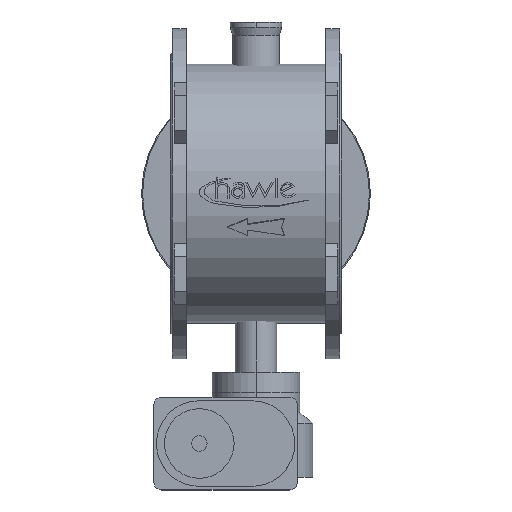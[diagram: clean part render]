
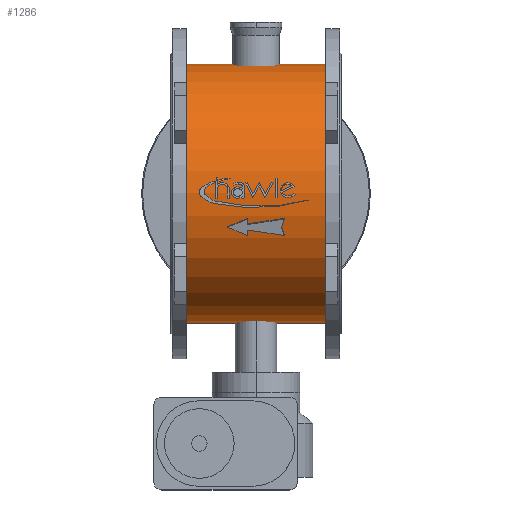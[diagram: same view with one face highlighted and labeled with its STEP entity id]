
A CAD part, top view. The second image highlights one B-rep face of the part: STEP entity #1286.
In plain terms, the highlighted cylindrical face has radius 251 mm (diameter 502 mm), a partial arc.
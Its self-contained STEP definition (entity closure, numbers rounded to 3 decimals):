
#1286=ADVANCED_FACE('',(#2618),#2619,.T.);
#2618=FACE_OUTER_BOUND('',#4376,.T.);
#2619=CYLINDRICAL_SURFACE('',#4377,251.0);
#4376=EDGE_LOOP('',(#6615,#6616,#6617,#6618));
#4377=AXIS2_PLACEMENT_3D('',#6619,#6620,#6621);
#6615=ORIENTED_EDGE('',*,*,#9809,.T.);
#6616=ORIENTED_EDGE('',*,*,#9810,.T.);
#6617=ORIENTED_EDGE('',*,*,#9811,.T.);
#6618=ORIENTED_EDGE('',*,*,#9812,.T.);
#6619=CARTESIAN_POINT('',(-300.0,0.,0.0));
#6620=DIRECTION('',(1.0,0.,0.0));
#6621=DIRECTION('',(0.,-1.0,0.0));
#9809=EDGE_CURVE('',#11742,#11743,#11744,.T.);
#9810=EDGE_CURVE('',#11743,#11745,#11746,.T.);
#9811=EDGE_CURVE('',#11745,#11747,#11748,.T.);
#9812=EDGE_CURVE('',#11747,#11742,#11749,.T.);
#11742=VERTEX_POINT('',#14161);
#11743=VERTEX_POINT('',#14162);
#11744=LINE('',#14163,#14164);
#11745=VERTEX_POINT('',#14165);
#11746=CIRCLE('',#14166,251.0);
#11747=VERTEX_POINT('',#14167);
#11748=LINE('',#14168,#14169);
#11749=CIRCLE('',#14170,251.0);
#14161=CARTESIAN_POINT('',(-300.0,-251.0,0.0));
#14162=CARTESIAN_POINT('',(-30.0,-251.0,0.0));
#14163=CARTESIAN_POINT('',(-300.0,-251.0,0.));
#14164=VECTOR('',#16404,1.0);
#14165=CARTESIAN_POINT('',(-30.0,251.0,0.));
#14166=AXIS2_PLACEMENT_3D('',#16405,#16406,#16407);
#14167=CARTESIAN_POINT('',(-300.0,251.0,0.));
#14168=CARTESIAN_POINT('',(-300.0,251.0,0.));
#14169=VECTOR('',#16408,1.0);
#14170=AXIS2_PLACEMENT_3D('',#16409,#16410,#16411);
#16404=DIRECTION('',(1.0,0.,0.0));
#16405=CARTESIAN_POINT('',(-30.0,0.,0.0));
#16406=DIRECTION('',(-1.0,0.,0.0));
#16407=DIRECTION('',(0.,-1.0,0.0));
#16408=DIRECTION('',(-1.0,0.,-0.0));
#16409=CARTESIAN_POINT('',(-300.0,0.,0.0));
#16410=DIRECTION('',(1.0,0.,0.0));
#16411=DIRECTION('',(0.,-1.0,0.0));
